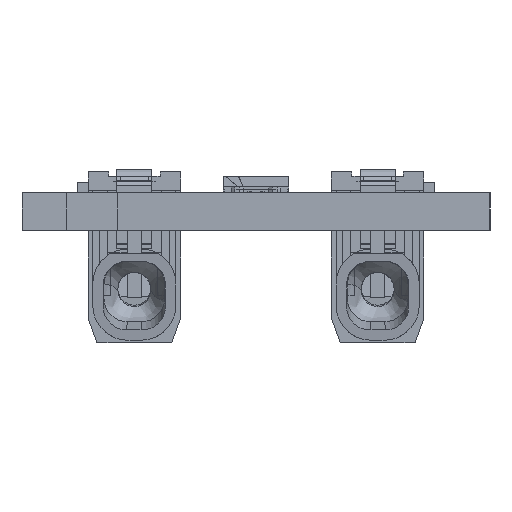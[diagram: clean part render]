
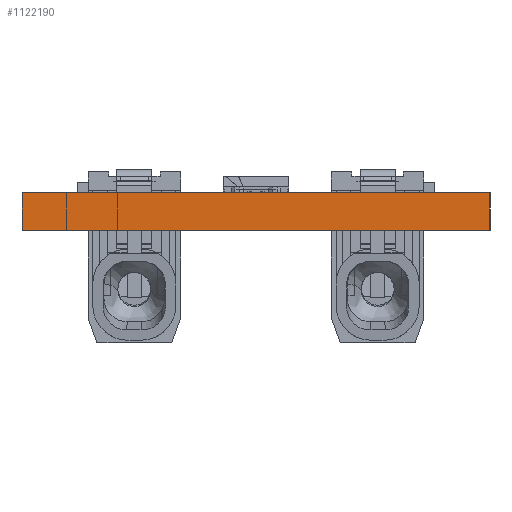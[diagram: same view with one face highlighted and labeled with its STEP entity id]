
A CAD part, left-side view. The second image highlights one B-rep face of the part: STEP entity #1122190.
In plain terms, the highlighted planar face has unit normal (-1, 0, 0).
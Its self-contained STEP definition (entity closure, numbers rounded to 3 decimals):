
#1085460=CARTESIAN_POINT('',(-279.5,10.,0.));
#1085470=DIRECTION('',(0.,-1.,0.));
#1085480=VECTOR('',#1085470,0.039);
#1085490=LINE('',#1085460,#1085480);
#1085500=CARTESIAN_POINT('',(-279.5,10.,0.));
#1085510=VERTEX_POINT('',#1085500);
#1085520=CARTESIAN_POINT('',(-279.5,-10.,0.));
#1085530=VERTEX_POINT('',#1085520);
#1085540=EDGE_CURVE('',#1085510,#1085530,#1085490,.T.);
#1097690=CARTESIAN_POINT('',(-279.5,-10.,-1.6));
#1097700=VERTEX_POINT('',#1097690);
#1101830=CARTESIAN_POINT('',(-279.5,10.,-1.6));
#1101840=VERTEX_POINT('',#1101830);
#1101870=CARTESIAN_POINT('',(-279.5,10.,-1.6));
#1101880=DIRECTION('',(0.,-1.,0.));
#1101890=VECTOR('',#1101880,0.039);
#1101900=LINE('',#1101870,#1101890);
#1101910=EDGE_CURVE('',#1101840,#1097700,#1101900,.T.);
#1109920=CARTESIAN_POINT('',(-279.5,-10.,0.));
#1109930=DIRECTION('',(0.,0.,-1.));
#1109940=VECTOR('',#1109930,1.);
#1109950=LINE('',#1109920,#1109940);
#1109960=EDGE_CURVE('',#1085530,#1097700,#1109950,.T.);
#1121900=CARTESIAN_POINT('',(-279.5,10.,0.));
#1121910=DIRECTION('',(0.,0.,-1.));
#1121920=VECTOR('',#1121910,1.);
#1121930=LINE('',#1121900,#1121920);
#1121940=EDGE_CURVE('',#1085510,#1101840,#1121930,.T.);
#1122080=CARTESIAN_POINT('',(-279.5,-10.,0.));
#1122090=DIRECTION('',(1.,0.,0.));
#1122100=DIRECTION('',(0.,-1.,0.));
#1122110=AXIS2_PLACEMENT_3D('',#1122080,#1122090,#1122100);
#1122120=PLANE('',#1122110);
#1122130=ORIENTED_EDGE('',*,*,#1085540,.F.);
#1122140=ORIENTED_EDGE('',*,*,#1109960,.F.);
#1122150=ORIENTED_EDGE('',*,*,#1101910,.T.);
#1122160=ORIENTED_EDGE('',*,*,#1121940,.T.);
#1122170=EDGE_LOOP('',(#1122160,#1122150,#1122140,#1122130));
#1122180=FACE_OUTER_BOUND('',#1122170,.T.);
#1122190=ADVANCED_FACE('',(#1122180),#1122120,.F.);
